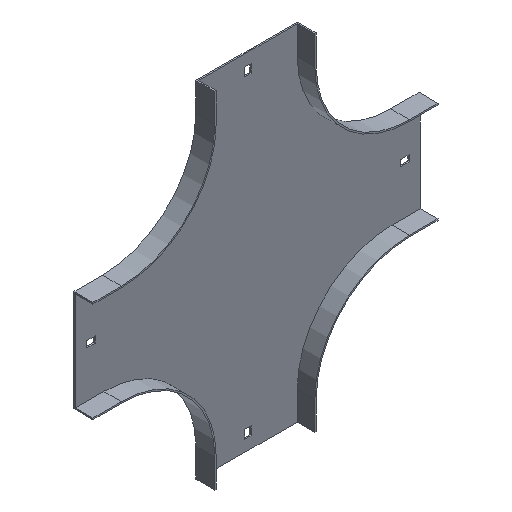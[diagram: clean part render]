
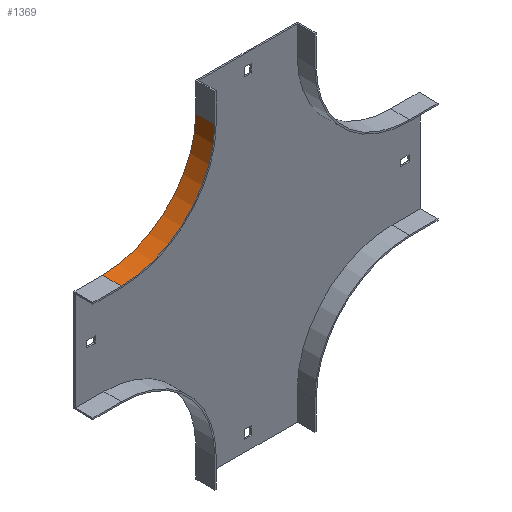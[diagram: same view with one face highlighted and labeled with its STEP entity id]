
A CAD part, isometric view. The second image highlights one B-rep face of the part: STEP entity #1369.
In plain terms, the highlighted cylindrical face has radius 98.5 mm (diameter 197 mm), a partial arc.
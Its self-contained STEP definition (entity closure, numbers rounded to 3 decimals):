
#24 = CARTESIAN_POINT ( 'NONE',  ( -304., -20., -98.5 ) ) ;
#52 = VECTOR ( 'NONE', #1161, 1000. ) ;
#103 = EDGE_CURVE ( 'NONE', #106, #190, #947, .T. ) ;
#106 = VERTEX_POINT ( 'NONE', #1204 ) ;
#124 = CARTESIAN_POINT ( 'NONE',  ( -304., -20., -98.5 ) ) ;
#127 = CARTESIAN_POINT ( 'NONE',  ( -205.5, 0., 0. ) ) ;
#129 = FACE_OUTER_BOUND ( 'NONE', #1374, .T. ) ;
#173 = CARTESIAN_POINT ( 'NONE',  ( -304., 0., 0. ) ) ;
#190 = VERTEX_POINT ( 'NONE', #127 ) ;
#207 = DIRECTION ( 'NONE',  ( 0., 1., 0. ) ) ;
#244 = VERTEX_POINT ( 'NONE', #252 ) ;
#252 = CARTESIAN_POINT ( 'NONE',  ( -205.5, -20., 0. ) ) ;
#319 = LINE ( 'NONE', #842, #982 ) ;
#324 = EDGE_CURVE ( 'NONE', #1541, #244, #1251, .T. ) ;
#338 = AXIS2_PLACEMENT_3D ( 'NONE', #528, #1050, #1378 ) ;
#444 = ORIENTED_EDGE ( 'NONE', *, *, #735, .F. ) ;
#485 = ORIENTED_EDGE ( 'NONE', *, *, #324, .T. ) ;
#511 = EDGE_CURVE ( 'NONE', #244, #190, #319, .T. ) ;
#528 = CARTESIAN_POINT ( 'NONE',  ( -304., -20., 0. ) ) ;
#732 = DIRECTION ( 'NONE',  ( 0., 0., 1. ) ) ;
#735 = EDGE_CURVE ( 'NONE', #1541, #106, #1535, .T. ) ;
#829 = DIRECTION ( 'NONE',  ( 0., -1., 0. ) ) ;
#834 = AXIS2_PLACEMENT_3D ( 'NONE', #173, #829, #1190 ) ;
#842 = CARTESIAN_POINT ( 'NONE',  ( -205.5, -20., 0. ) ) ;
#947 = CIRCLE ( 'NONE', #834, 98.5 ) ;
#982 = VECTOR ( 'NONE', #207, 1000. ) ;
#1011 = ORIENTED_EDGE ( 'NONE', *, *, #511, .T. ) ;
#1050 = DIRECTION ( 'NONE',  ( 0., 1., 0. ) ) ;
#1161 = DIRECTION ( 'NONE',  ( 0., 1., 0. ) ) ;
#1166 = CYLINDRICAL_SURFACE ( 'NONE', #338, 98.5 ) ;
#1190 = DIRECTION ( 'NONE',  ( 0., 0., 1. ) ) ;
#1204 = CARTESIAN_POINT ( 'NONE',  ( -304., 0., -98.5 ) ) ;
#1235 = DIRECTION ( 'NONE',  ( 0., -1., 0. ) ) ;
#1251 = CIRCLE ( 'NONE', #1608, 98.5 ) ;
#1369 = ADVANCED_FACE ( 'NONE', ( #129 ), #1166, .F. ) ;
#1374 = EDGE_LOOP ( 'NONE', ( #1657, #444, #485, #1011 ) ) ;
#1378 = DIRECTION ( 'NONE',  ( 0., 0., 1. ) ) ;
#1504 = CARTESIAN_POINT ( 'NONE',  ( -304., -20., 0. ) ) ;
#1535 = LINE ( 'NONE', #124, #52 ) ;
#1541 = VERTEX_POINT ( 'NONE', #24 ) ;
#1608 = AXIS2_PLACEMENT_3D ( 'NONE', #1504, #1235, #732 ) ;
#1657 = ORIENTED_EDGE ( 'NONE', *, *, #103, .F. ) ;
